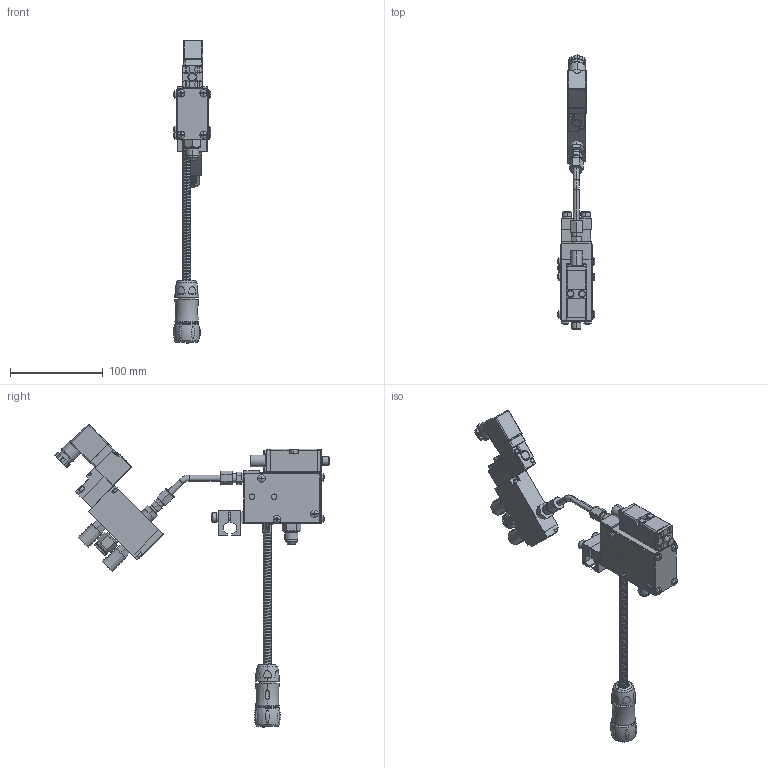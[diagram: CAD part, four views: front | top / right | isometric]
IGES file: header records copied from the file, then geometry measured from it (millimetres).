
Start section:  PTC IGES file: 24u021-en-l.igs
Global section: file name: 24u021-en-l.igs; native system: Creo Parametric by PTC Inc.; preprocessor: 2019030; author: qusrh3; organization: Unknown; date: 20191231.175408; units: inch
Bounding box: 41.05 x 296.58 x 327.83 mm (x, y, z)
Surface area: 105964 mm2 (no closed solid volume)
Topology: 0 solids, 0 shells, 1054 faces, 5000 edges, 4980 vertices
Faces by surface type: revolution 545, bspline 509
